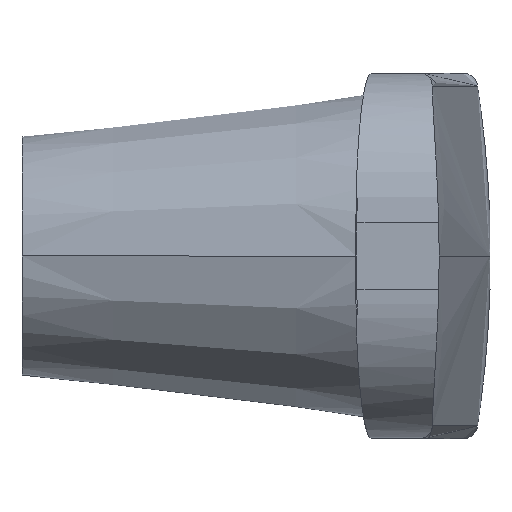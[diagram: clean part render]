
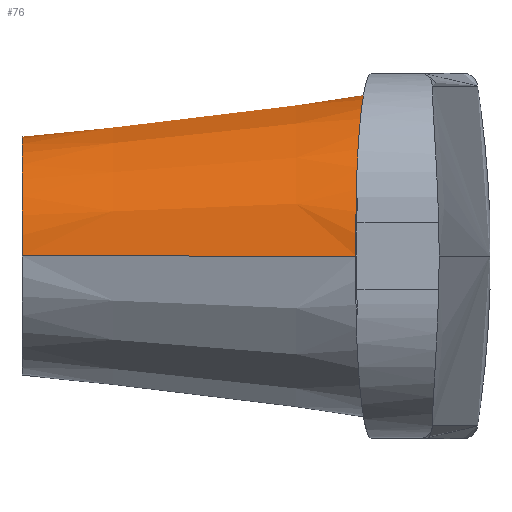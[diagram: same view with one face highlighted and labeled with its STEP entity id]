
A CAD part, left-side view. The second image highlights one B-rep face of the part: STEP entity #76.
In plain terms, the highlighted conical face has half-angle 7 degrees and reference radius 8 mm.
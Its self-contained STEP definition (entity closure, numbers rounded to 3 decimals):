
#76 = ADVANCED_FACE( '', ( #121 ), #122, .T. );
#121 = FACE_OUTER_BOUND( '', #215, .T. );
#122 = CONICAL_SURFACE( '', #216, 8., 0.122 );
#215 = EDGE_LOOP( '', ( #316, #317, #318, #319, #320 ) );
#216 = AXIS2_PLACEMENT_3D( '', #321, #322, #323 );
#316 = ORIENTED_EDGE( '', *, *, #632, .F. );
#317 = ORIENTED_EDGE( '', *, *, #633, .F. );
#318 = ORIENTED_EDGE( '', *, *, #634, .F. );
#319 = ORIENTED_EDGE( '', *, *, #635, .F. );
#320 = ORIENTED_EDGE( '', *, *, #636, .T. );
#321 = CARTESIAN_POINT( '', ( 0., 0., 0. ) );
#322 = DIRECTION( '', ( 0., -1., 0. ) );
#323 = DIRECTION( '', ( 1., 0., 0. ) );
#632 = EDGE_CURVE( '', #733, #734, #735, .T. );
#633 = EDGE_CURVE( '', #736, #733, #737, .T. );
#634 = EDGE_CURVE( '', #738, #736, #739, .T. );
#635 = EDGE_CURVE( '', #740, #738, #741, .T. );
#636 = EDGE_CURVE( '', #740, #734, #742, .T. );
#733 = VERTEX_POINT( '', #918 );
#734 = VERTEX_POINT( '', #919 );
#735 = LINE( '', #920, #921 );
#736 = VERTEX_POINT( '', #922 );
#737 = CIRCLE( '', #923, 8. );
#738 = VERTEX_POINT( '', #924 );
#739 = LINE( '', #925, #926 );
#740 = VERTEX_POINT( '', #927 );
#741 = B_SPLINE_CURVE_WITH_KNOTS( '', 3, ( #928, #929, #930, #931, #932, #933, #934, #935, #936, #937, #938, #939, #940, #941, #942, #943, #944, #945, #946, #947, #948, #949, #950, #951, #952, #953, #954, #955, #956, #957, #958, #959, #960, #961, #962, #963, #964, #965, #966, #967, #968, #969, #970, #971, #972, #973, #974, #975, #976, #977, #978, #979, #980, #981, #982, #983, #984, #985, #986, #987, #988, #989 ), .UNSPECIFIED., .F., .F., ( 4, 2, 2, 2, 2, 2, 2, 2, 2, 2, 2, 2, 2, 2, 2, 2, 2, 2, 2, 2, 2, 2, 2, 2, 2, 2, 2, 2, 2, 2, 4 ), ( 2.351, 4.145, 6.217, 8.29, 10.359, 12.428, 14.497, 16.566, 18.618, 20.67, 22.721, 24.773, 26.8, 28.827, 30.853, 32.88, 34.907, 36.934, 38.961, 40.987, 43.039, 45.091, 47.142, 49.194, 51.263, 53.332, 55.401, 57.471, 59.543, 61.615, 63.409 ), .UNSPECIFIED. );
#742 = CIRCLE( '', #990, 11.008 );
#918 = CARTESIAN_POINT( '', ( 8., 0., 0. ) );
#919 = CARTESIAN_POINT( '', ( 11.008, -24.5, 0. ) );
#920 = CARTESIAN_POINT( '', ( 8., 0., 0. ) );
#921 = VECTOR( '', #1463, 1. );
#922 = CARTESIAN_POINT( '', ( -8., 0., 0. ) );
#923 = AXIS2_PLACEMENT_3D( '', #1464, #1465, #1466 );
#924 = CARTESIAN_POINT( '', ( -10.754, -22.426, 0. ) );
#925 = CARTESIAN_POINT( '', ( -8., 0., 0. ) );
#926 = VECTOR( '', #1467, 1. );
#927 = CARTESIAN_POINT( '', ( 10.743, -24.5, 2.4 ) );
#928 = CARTESIAN_POINT( '', ( 10.743, -24.5, 2.4 ) );
#929 = CARTESIAN_POINT( '', ( 10.605, -24.488, 3.013 ) );
#930 = CARTESIAN_POINT( '', ( 10.411, -24.472, 3.621 ) );
#931 = CARTESIAN_POINT( '', ( 9.884, -24.426, 4.881 ) );
#932 = CARTESIAN_POINT( '', ( 9.532, -24.396, 5.529 ) );
#933 = CARTESIAN_POINT( '', ( 8.719, -24.325, 6.724 ) );
#934 = CARTESIAN_POINT( '', ( 8.258, -24.284, 7.272 ) );
#935 = CARTESIAN_POINT( '', ( 7.277, -24.197, 8.239 ) );
#936 = CARTESIAN_POINT( '', ( 6.723, -24.148, 8.692 ) );
#937 = CARTESIAN_POINT( '', ( 5.521, -24.039, 9.486 ) );
#938 = CARTESIAN_POINT( '', ( 4.871, -23.98, 9.828 ) );
#939 = CARTESIAN_POINT( '', ( 3.518, -23.856, 10.373 ) );
#940 = CARTESIAN_POINT( '', ( 2.813, -23.79, 10.577 ) );
#941 = CARTESIAN_POINT( '', ( 1.397, -23.656, 10.839 ) );
#942 = CARTESIAN_POINT( '', ( 0.686, -23.589, 10.896 ) );
#943 = CARTESIAN_POINT( '', ( -0.681, -23.457, 10.88 ) );
#944 = CARTESIAN_POINT( '', ( -1.384, -23.388, 10.807 ) );
#945 = CARTESIAN_POINT( '', ( -2.782, -23.25, 10.517 ) );
#946 = CARTESIAN_POINT( '', ( -3.476, -23.181, 10.3 ) );
#947 = CARTESIAN_POINT( '', ( -4.807, -23.047, 9.732 ) );
#948 = CARTESIAN_POINT( '', ( -5.444, -22.982, 9.38 ) );
#949 = CARTESIAN_POINT( '', ( -6.622, -22.862, 8.571 ) );
#950 = CARTESIAN_POINT( '', ( -7.162, -22.806, 8.113 ) );
#951 = CARTESIAN_POINT( '', ( -8.111, -22.707, 7.145 ) );
#952 = CARTESIAN_POINT( '', ( -8.554, -22.66, 6.602 ) );
#953 = CARTESIAN_POINT( '', ( -9.335, -22.578, 5.422 ) );
#954 = CARTESIAN_POINT( '', ( -9.673, -22.542, 4.785 ) );
#955 = CARTESIAN_POINT( '', ( -10.215, -22.484, 3.457 ) );
#956 = CARTESIAN_POINT( '', ( -10.421, -22.462, 2.765 ) );
#957 = CARTESIAN_POINT( '', ( -10.69, -22.433, 1.374 ) );
#958 = CARTESIAN_POINT( '', ( -10.754, -22.426, 0.676 ) );
#959 = CARTESIAN_POINT( '', ( -10.754, -22.426, -0.676 ) );
#960 = CARTESIAN_POINT( '', ( -10.69, -22.433, -1.374 ) );
#961 = CARTESIAN_POINT( '', ( -10.421, -22.462, -2.765 ) );
#962 = CARTESIAN_POINT( '', ( -10.215, -22.484, -3.457 ) );
#963 = CARTESIAN_POINT( '', ( -9.673, -22.542, -4.785 ) );
#964 = CARTESIAN_POINT( '', ( -9.335, -22.578, -5.422 ) );
#965 = CARTESIAN_POINT( '', ( -8.554, -22.66, -6.602 ) );
#966 = CARTESIAN_POINT( '', ( -8.111, -22.707, -7.145 ) );
#967 = CARTESIAN_POINT( '', ( -7.162, -22.806, -8.113 ) );
#968 = CARTESIAN_POINT( '', ( -6.622, -22.862, -8.571 ) );
#969 = CARTESIAN_POINT( '', ( -5.444, -22.982, -9.38 ) );
#970 = CARTESIAN_POINT( '', ( -4.807, -23.047, -9.732 ) );
#971 = CARTESIAN_POINT( '', ( -3.476, -23.181, -10.3 ) );
#972 = CARTESIAN_POINT( '', ( -2.782, -23.25, -10.517 ) );
#973 = CARTESIAN_POINT( '', ( -1.384, -23.388, -10.807 ) );
#974 = CARTESIAN_POINT( '', ( -0.681, -23.457, -10.88 ) );
#975 = CARTESIAN_POINT( '', ( 0.686, -23.589, -10.896 ) );
#976 = CARTESIAN_POINT( '', ( 1.397, -23.656, -10.839 ) );
#977 = CARTESIAN_POINT( '', ( 2.813, -23.79, -10.577 ) );
#978 = CARTESIAN_POINT( '', ( 3.518, -23.856, -10.373 ) );
#979 = CARTESIAN_POINT( '', ( 4.871, -23.98, -9.828 ) );
#980 = CARTESIAN_POINT( '', ( 5.521, -24.039, -9.486 ) );
#981 = CARTESIAN_POINT( '', ( 6.723, -24.148, -8.692 ) );
#982 = CARTESIAN_POINT( '', ( 7.277, -24.197, -8.239 ) );
#983 = CARTESIAN_POINT( '', ( 8.258, -24.284, -7.272 ) );
#984 = CARTESIAN_POINT( '', ( 8.719, -24.325, -6.724 ) );
#985 = CARTESIAN_POINT( '', ( 9.532, -24.396, -5.529 ) );
#986 = CARTESIAN_POINT( '', ( 9.884, -24.426, -4.881 ) );
#987 = CARTESIAN_POINT( '', ( 10.411, -24.472, -3.621 ) );
#988 = CARTESIAN_POINT( '', ( 10.605, -24.488, -3.013 ) );
#989 = CARTESIAN_POINT( '', ( 10.743, -24.5, -2.4 ) );
#990 = AXIS2_PLACEMENT_3D( '', #1468, #1469, #1470 );
#1463 = DIRECTION( '', ( 0.122, -0.993, 0. ) );
#1464 = CARTESIAN_POINT( '', ( 0., 0., 0. ) );
#1465 = DIRECTION( '', ( 0., 1., 0. ) );
#1466 = DIRECTION( '', ( 1., 0., 0. ) );
#1467 = DIRECTION( '', ( 0.122, 0.993, 0. ) );
#1468 = CARTESIAN_POINT( '', ( 0., -24.5, 0. ) );
#1469 = DIRECTION( '', ( 0., 1., 0. ) );
#1470 = DIRECTION( '', ( 1., 0., 0. ) );
